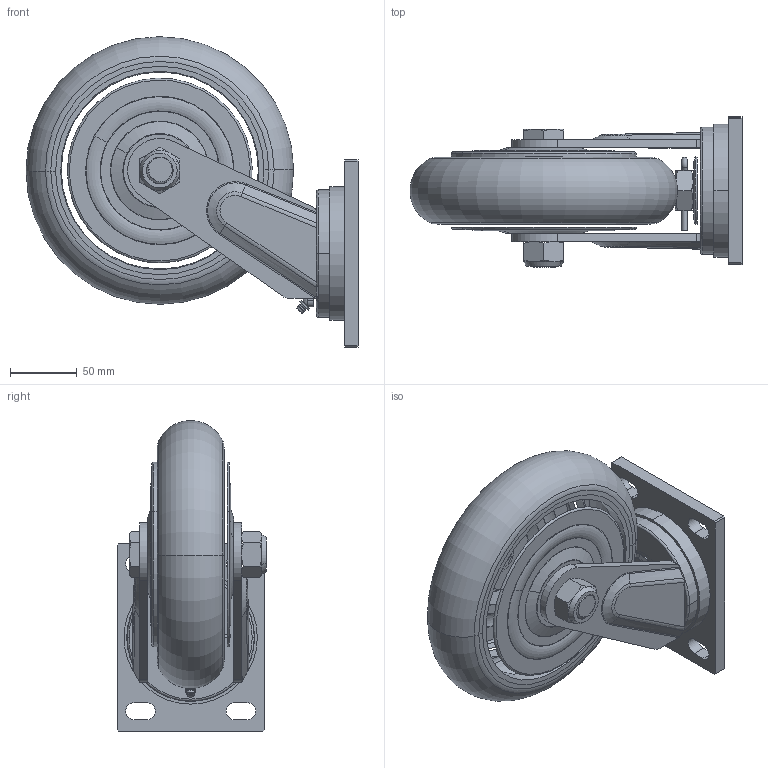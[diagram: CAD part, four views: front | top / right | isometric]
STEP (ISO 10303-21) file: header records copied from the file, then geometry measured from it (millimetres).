
FILE_DESCRIPTION((''),'2;1');
FILE_NAME('PRT0007','2025-03-25T10:22:41',('Administrator'),(''),'CREO PARAMETRIC BY PTC INC, 2024325','CREO PARAMETRIC BY PTC INC, 2024325','');
FILE_SCHEMA(('CONFIG_CONTROL_DESIGN','GEOMETRIC_VALIDATION_PROPERTIES_MIM'));
Length unit declared in the file: millimetre
Products named in the file (1): PRT0007
Bounding box: 247.9 x 112 x 231.9 mm (x, y, z)
Surface area: 183165 mm2 (no closed solid volume)
Topology: 0 solids, 23 shells, 212 faces, 635 edges, 447 vertices
Faces by surface type: plane 80, torus 37, bspline 35, cone 35, cylinder 25
Entity records: 11523 total; most frequent: CARTESIAN_POINT 4602, DIRECTION 1056, ORIENTED_EDGE 1051, EDGE_CURVE 635, VERTEX_POINT 447, AXIS2_PLACEMENT_3D 422, EDGE_LOOP 247, CIRCLE 245
